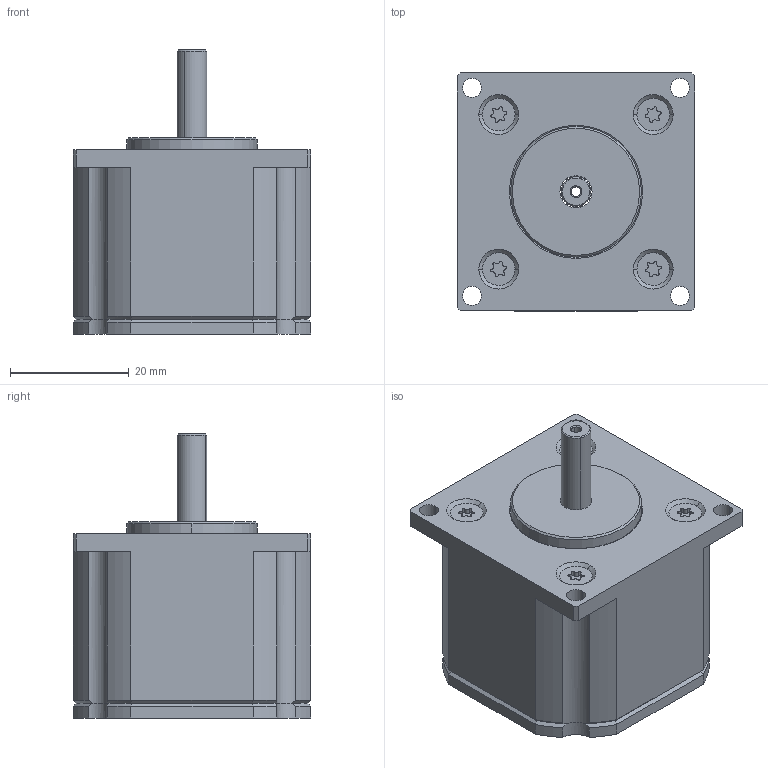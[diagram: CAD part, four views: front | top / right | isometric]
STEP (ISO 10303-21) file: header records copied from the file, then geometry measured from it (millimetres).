
FILE_DESCRIPTION (( 'STEP AP214' ), '1' );
FILE_NAME ('HV35-1.STEP', '2026-08-20T09:12:54', ( '' ), ( '' ), 'SwSTEP 2.0', 'SolidWorks 2026', '' );
FILE_SCHEMA (( 'AUTOMOTIVE_DESIGN' ));
Length unit declared in the file: millimetre
Products named in the file (1): HV35-1
Bounding box: 40 x 40 x 47.8 mm (x, y, z)
Surface area: 9153.1 mm2 (no closed solid volume)
Topology: 0 solids, 13 shells, 221 faces, 734 edges, 532 vertices
Faces by surface type: cylinder 142, plane 43, cone 31, torus 4, bspline 1
Entity records: 11251 total; most frequent: CARTESIAN_POINT 4847, DIRECTION 1378, ORIENTED_EDGE 1251, EDGE_CURVE 734, AXIS2_PLACEMENT_3D 580, VERTEX_POINT 532, CIRCLE 359, EDGE_LOOP 254
